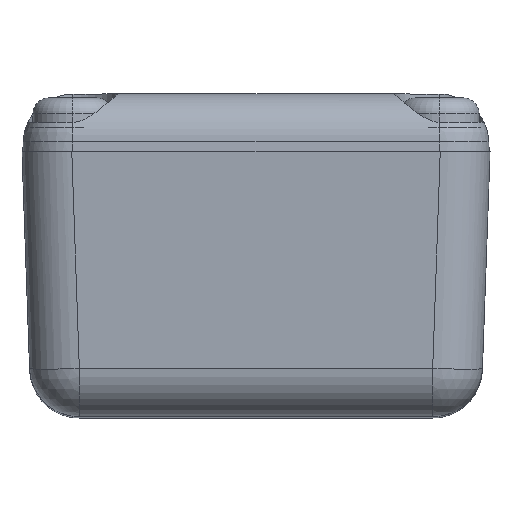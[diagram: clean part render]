
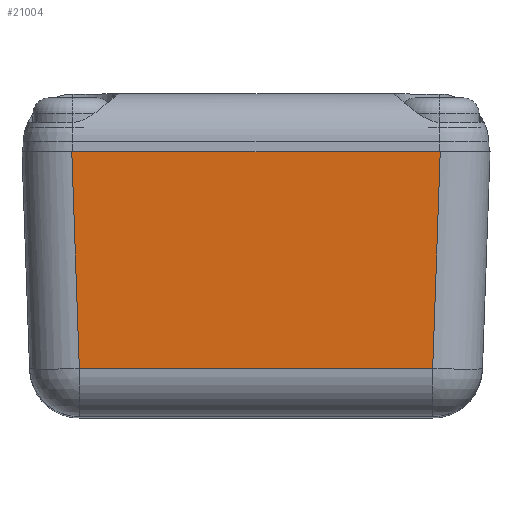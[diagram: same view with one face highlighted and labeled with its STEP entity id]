
A CAD part, top view. The second image highlights one B-rep face of the part: STEP entity #21004.
In plain terms, the highlighted planar face has unit normal (0, -0.035, 0.999).
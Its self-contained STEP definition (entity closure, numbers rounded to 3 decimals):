
#428 = VERTEX_POINT ( 'NONE', #1812 ) ;
#1689 = VERTEX_POINT ( 'NONE', #28983 ) ;
#1812 = CARTESIAN_POINT ( 'NONE',  ( -9.252, 0., 24.25 ) ) ;
#2377 = DIRECTION ( 'NONE',  ( 0., -0.999, -0.035 ) ) ;
#3356 = ORIENTED_EDGE ( 'NONE', *, *, #14992, .T. ) ;
#4141 = CARTESIAN_POINT ( 'NONE',  ( -11.75, 0., 24.25 ) ) ;
#4415 = DIRECTION ( 'NONE',  ( 0., -0.035, 0.999 ) ) ;
#5813 = DIRECTION ( 'NONE',  ( 0.035, -0.999, -0.035 ) ) ;
#6396 = VERTEX_POINT ( 'NONE', #20906 ) ;
#9169 = ORIENTED_EDGE ( 'NONE', *, *, #36301, .T. ) ;
#10537 = DIRECTION ( 'NONE',  ( 1., 0., 0. ) ) ;
#13396 = CARTESIAN_POINT ( 'NONE',  ( 11.286, -10.887, 23.87 ) ) ;
#14432 = EDGE_LOOP ( 'NONE', ( #9169, #3356, #16117, #17924 ) ) ;
#14851 = CARTESIAN_POINT ( 'NONE',  ( 8.871, -10.887, 23.87 ) ) ;
#14992 = EDGE_CURVE ( 'NONE', #22895, #1689, #31623, .T. ) ;
#15805 = EDGE_CURVE ( 'NONE', #428, #6396, #36986, .T. ) ;
#16117 = ORIENTED_EDGE ( 'NONE', *, *, #40000, .F. ) ;
#17924 = ORIENTED_EDGE ( 'NONE', *, *, #15805, .T. ) ;
#20231 = DIRECTION ( 'NONE',  ( 0.035, 0.999, 0.035 ) ) ;
#20906 = CARTESIAN_POINT ( 'NONE',  ( -8.871, -10.887, 23.87 ) ) ;
#21004 = ADVANCED_FACE ( 'NONE', ( #36152 ), #27065, .T. ) ;
#22895 = VERTEX_POINT ( 'NONE', #14851 ) ;
#22914 = CARTESIAN_POINT ( 'NONE',  ( -11.75, 0., 24.25 ) ) ;
#23360 = VECTOR ( 'NONE', #35774, 1000. ) ;
#25488 = LINE ( 'NONE', #13396, #27471 ) ;
#27065 = PLANE ( 'NONE',  #35696 ) ;
#27471 = VECTOR ( 'NONE', #10537, 1000. ) ;
#28983 = CARTESIAN_POINT ( 'NONE',  ( 9.252, 0., 24.25 ) ) ;
#31623 = LINE ( 'NONE', #38915, #37435 ) ;
#32212 = LINE ( 'NONE', #22914, #23360 ) ;
#35027 = VECTOR ( 'NONE', #5813, 1000. ) ;
#35696 = AXIS2_PLACEMENT_3D ( 'NONE', #4141, #4415, #2377 ) ;
#35774 = DIRECTION ( 'NONE',  ( 1., 0., 0. ) ) ;
#36152 = FACE_OUTER_BOUND ( 'NONE', #14432, .T. ) ;
#36301 = EDGE_CURVE ( 'NONE', #6396, #22895, #25488, .T. ) ;
#36986 = LINE ( 'NONE', #39913, #35027 ) ;
#37435 = VECTOR ( 'NONE', #20231, 1000. ) ;
#38915 = CARTESIAN_POINT ( 'NONE',  ( 9.226, -0.732, 24.224 ) ) ;
#39913 = CARTESIAN_POINT ( 'NONE',  ( -9.255, 0.087, 24.253 ) ) ;
#40000 = EDGE_CURVE ( 'NONE', #428, #1689, #32212, .T. ) ;
